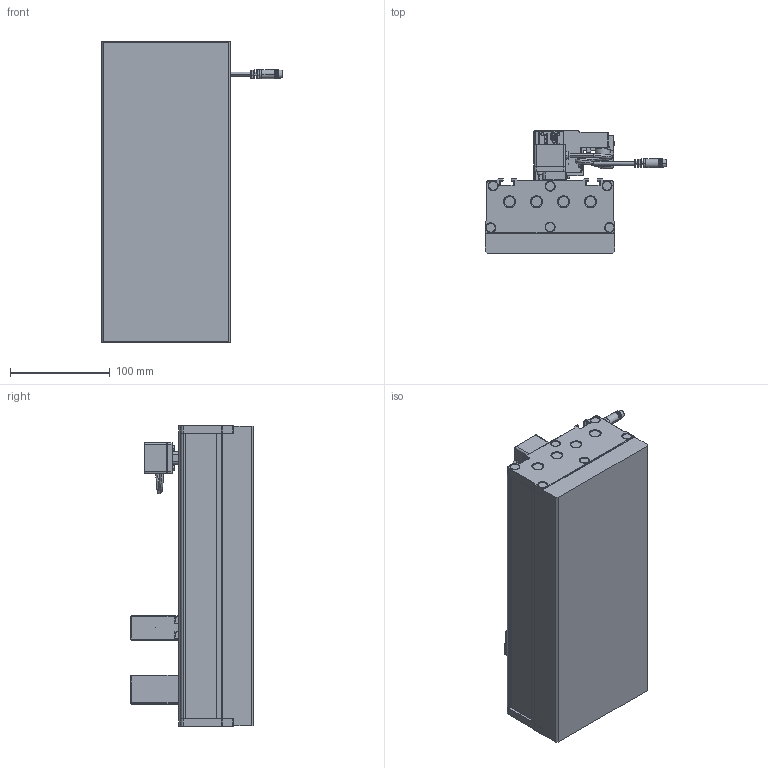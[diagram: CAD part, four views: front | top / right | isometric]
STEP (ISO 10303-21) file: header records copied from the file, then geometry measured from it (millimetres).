
FILE_DESCRIPTION (( 'STEP AP203' ), '1' );
FILE_NAME ('130X300.STEP', '2021-03-16T00:27:29', ( '' ), ( '' ), 'SwSTEP 2.0', 'SolidWorks 2014', '' );
FILE_SCHEMA (( 'CONFIG_CONTROL_DESIGN' ));
Length unit declared in the file: millimetre
Products named in the file (5): 130X300; Part-1; Part-4; Part-2; Part-3
Assembly tree (4 placements, depth 2):
  130X300
    Part-1
    Part-2
    Part-3
    Part-4
Bounding box: 182.07 x 123.47 x 302 mm (x, y, z)
Volume: 2908318.2 mm3; surface area: 200469.3 mm2
Topology: 4 solids, 12 shells, 2559 faces, 6641 edges, 4242 vertices
Faces by surface type: plane 1357, bspline 654, cylinder 368, torus 79, cone 58, sphere 43
Entity records: 84478 total; most frequent: CARTESIAN_POINT 29562, ORIENTED_EDGE 13138, DIRECTION 8136, EDGE_CURVE 6569, VERTEX_POINT 4242, LINE 4186, VECTOR 4186, EDGE_LOOP 2773
